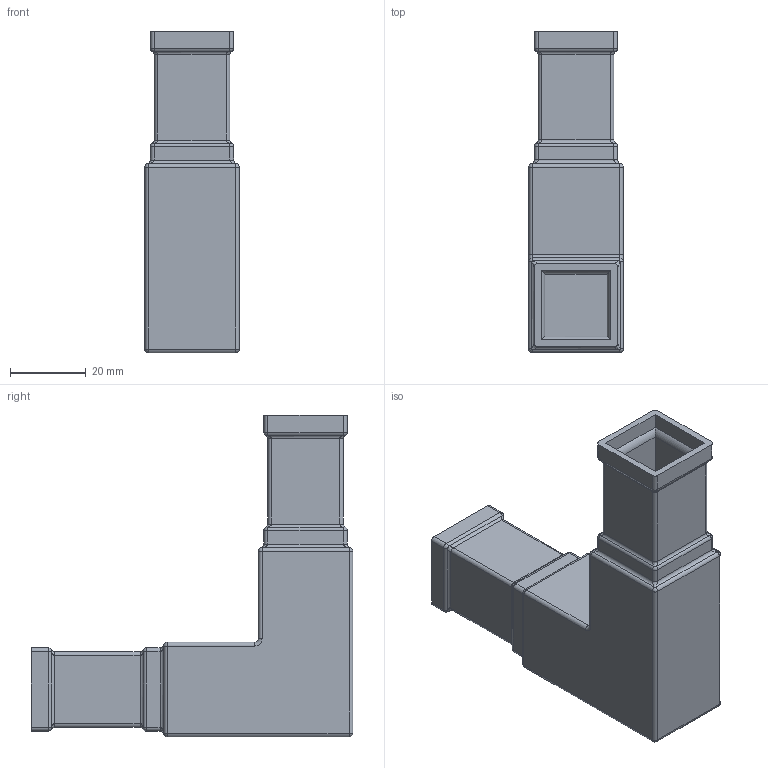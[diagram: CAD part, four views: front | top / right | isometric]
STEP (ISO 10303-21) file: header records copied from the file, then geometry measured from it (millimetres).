
FILE_DESCRIPTION (( 'STEP AP214' ), '1' );
FILE_NAME ('115.301.101.STEP', '2021-07-21T11:46:20', ( '' ), ( '' ), 'SwSTEP 2.0', 'SolidWorks 2018', '' );
FILE_SCHEMA (( 'AUTOMOTIVE_DESIGN' ));
Length unit declared in the file: millimetre
Products named in the file (1): 115.301.101
Bounding box: 25 x 85 x 85 mm (x, y, z)
Volume: 22220.1 mm3; surface area: 24846.7 mm2
Topology: 1 solids, 1 shells, 221 faces, 469 edges, 236 vertices
Faces by surface type: cylinder 107, plane 62, sphere 26, bspline 24, torus 2
Entity records: 6311 total; most frequent: CARTESIAN_POINT 1921, DIRECTION 923, ORIENTED_EDGE 910, EDGE_CURVE 455, AXIS2_PLACEMENT_3D 342, LINE 239, VECTOR 239, VERTEX_POINT 236
